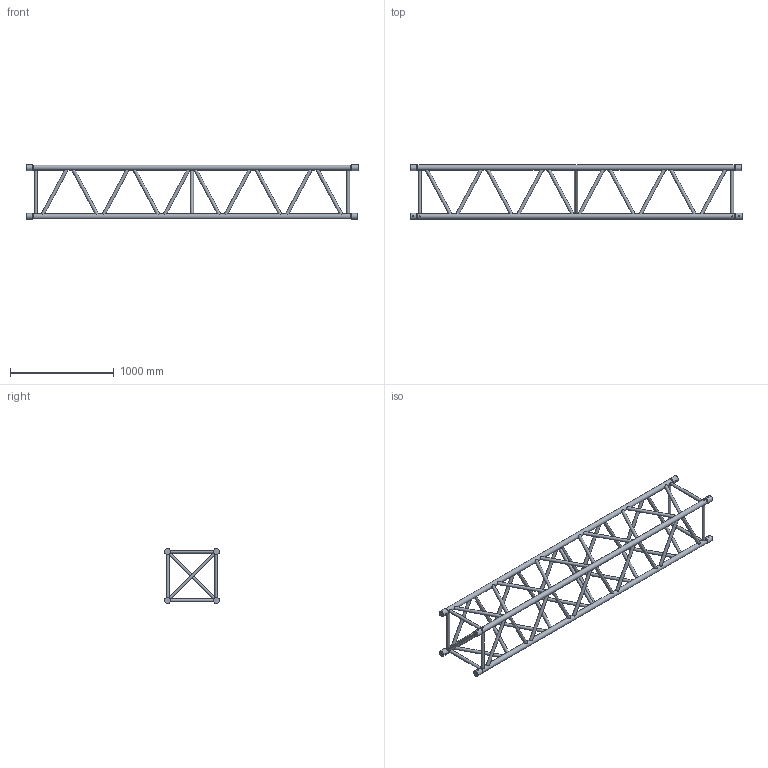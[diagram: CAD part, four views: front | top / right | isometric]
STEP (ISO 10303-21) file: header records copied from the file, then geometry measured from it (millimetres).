
FILE_DESCRIPTION(/* description */ (''),/* implementation_level */ '2;1');
FILE_NAME(/* name */ 'M:\Symbolen_NIEUW\STP\52-er truss\111110116.stp',/* time_stamp */ '2015-04-22T16:18:26+02:00',/* author */ ('Stephan'),/* organization */ (''),/* preprocessor_version */ 'ST-DEVELOPER v15.6',/* originating_system */ 'Autodesk Inventor 2015',/* authorisation */ '');
FILE_SCHEMA (('AUTOMOTIVE_DESIGN { 1 0 10303 214 3 1 1 }'));
Length unit declared in the file: millimetre
Products named in the file (1): 160024050
Bounding box: 3200 x 528.8 x 528.8 mm (x, y, z)
Volume: 42685228.2 mm3; surface area: 4354324.8 mm2
Topology: 3 solids, 7 shells, 378 faces, 960 edges, 592 vertices
Faces by surface type: plane 207, cylinder 131, cone 40
Full cylindrical faces by diameter (mm): 10 x8, 30 x51, 50 x4, 58.8 x8
Entity records: 14176 total; most frequent: CARTESIAN_POINT 5934, DIRECTION 1641, ORIENTED_EDGE 1482, AXIS2_PLACEMENT_3D 754, EDGE_CURVE 712, EDGE_LOOP 570, VERTEX_POINT 471, STYLED_ITEM 351
